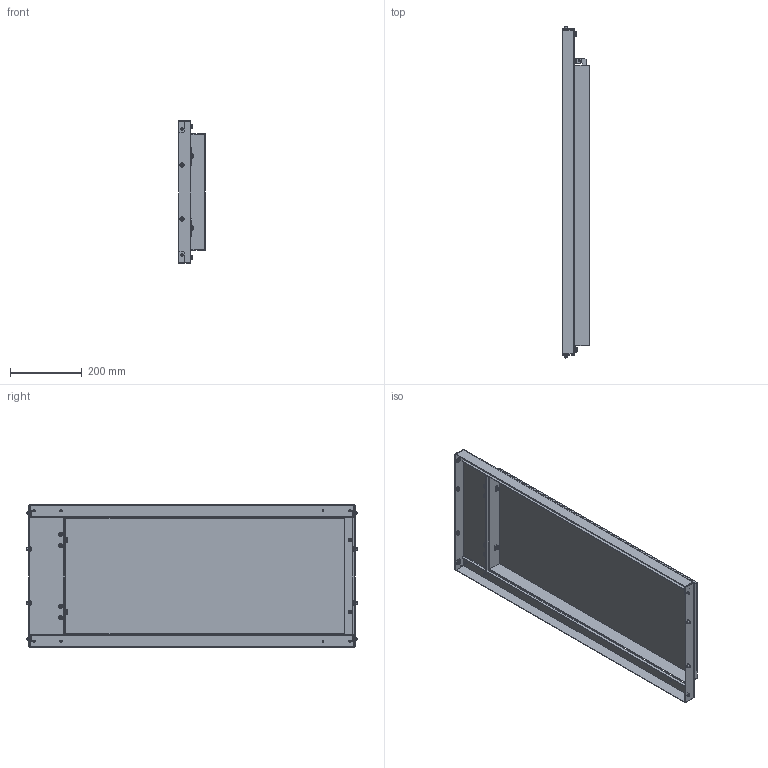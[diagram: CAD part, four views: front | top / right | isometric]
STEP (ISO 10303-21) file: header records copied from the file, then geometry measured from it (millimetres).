
FILE_DESCRIPTION (( 'STEP AP214' ), '1' );
FILE_NAME ('FO-00-MPR-040-1000 Ïàíåëü ìîíòàæíàÿ ïîâîðîòíàÿ 400x1000 ìì.STEP', '2025-09-03T14:23:54', ( '' ), ( '' ), 'SwSTEP 2.0', 'SolidWorks 2023', '' );
FILE_SCHEMA (( 'AUTOMOTIVE_DESIGN' ));
Length unit declared in the file: millimetre
Products named in the file (3): Панель монтажная 400x1000; Панель монтажная поворотная 400x1000; FO-00-MPR-040-1000 Панель монтажная поворотная 400x1000 мм
Assembly tree (2 placements, depth 2):
  FO-00-MPR-040-1000 Панель монтажная поворотная 400x1000 мм
    Панель монтажная поворотная 400x1000
    Панель монтажная 400x1000
Bounding box: 73 x 922.9 x 396 mm (x, y, z)
Volume: 1073210.4 mm3; surface area: 1129463.6 mm2
Topology: 2 solids, 18 shells, 1020 faces, 2534 edges, 1632 vertices
Faces by surface type: cylinder 534, plane 306, cone 92, torus 88
Entity records: 31238 total; most frequent: DIRECTION 5916, CARTESIAN_POINT 5523, ORIENTED_EDGE 5068, EDGE_CURVE 2534, AXIS2_PLACEMENT_3D 2373, VERTEX_POINT 1632, CIRCLE 1348, LINE 1170
